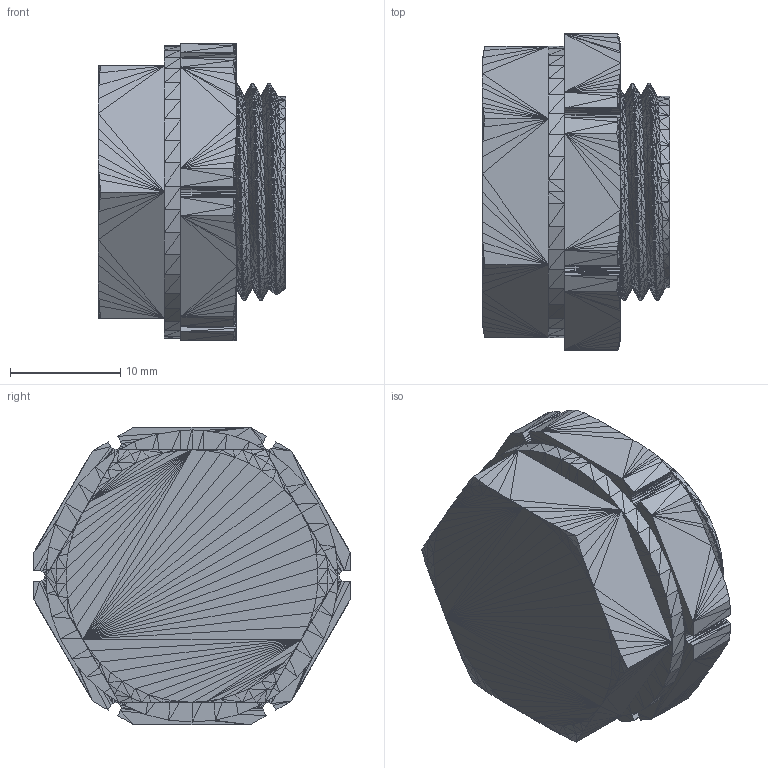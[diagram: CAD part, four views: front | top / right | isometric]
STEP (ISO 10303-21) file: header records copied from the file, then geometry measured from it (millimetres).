
FILE_DESCRIPTION((''),'2;1');
FILE_NAME('051241', '2025-12-17T10:03:59', (''), (''), 'ImageToStl.com STEP Converter','', '');
FILE_SCHEMA(('AUTOMOTIVE_DESIGN_CC2'));
Length unit declared in the file: metre
Products named in the file (1): product0
Bounding box: 17 x 28.67 x 27 mm (x, y, z)
Surface area: 5388.6 mm2 (no closed solid volume)
Topology: 0 solids, 9072 shells, 9072 faces, 27216 edges, 4538 vertices
Faces by surface type: plane 9072
Entity records: 208688 total; most frequent: DIRECTION 45362, ORIENTED_EDGE 27216, EDGE_CURVE 27216, LINE 27216, VECTOR 27216, AXIS2_PLACEMENT_3D 9073, FACE_SURFACE 9072, PLANE 9072
